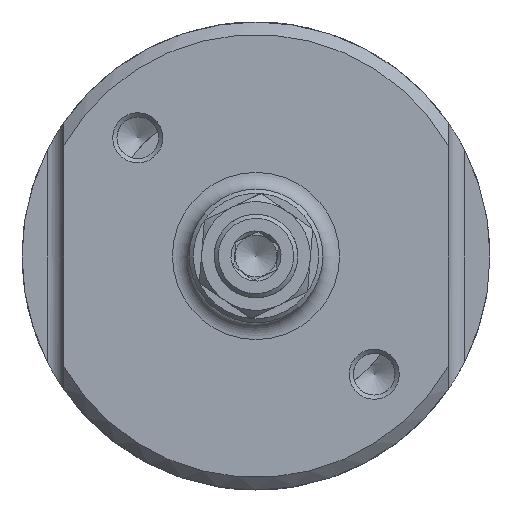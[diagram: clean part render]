
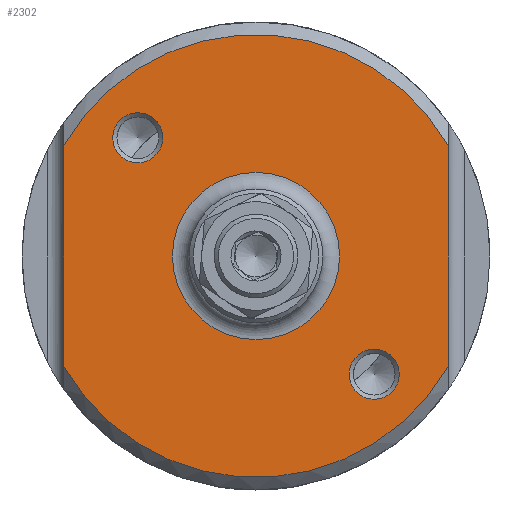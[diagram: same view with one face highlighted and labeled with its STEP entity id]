
A CAD part, front view. The second image highlights one B-rep face of the part: STEP entity #2302.
In plain terms, the highlighted planar face has unit normal (0, -1, 0).
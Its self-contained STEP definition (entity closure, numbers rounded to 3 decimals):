
#2302=ADVANCED_FACE('',(#2520,#2521,#2522,#2947),#2438,.T.);
#2438=PLANE('',#6611);
#2520=FACE_BOUND('',#3231,.T.);
#2521=FACE_BOUND('',#3232,.T.);
#2522=FACE_BOUND('',#3233,.T.);
#2712=CIRCLE('',#6582,3.);
#2713=CIRCLE('',#6584,3.);
#2716=CIRCLE('',#6590,10.);
#2727=CIRCLE('',#6609,26.5);
#2728=CIRCLE('',#6610,26.5);
#2947=FACE_OUTER_BOUND('',#3234,.T.);
#3231=EDGE_LOOP('',(#4753));
#3232=EDGE_LOOP('',(#4754));
#3233=EDGE_LOOP('',(#4755));
#3234=EDGE_LOOP('',(#4756,#4757,#4758,#4759));
#3526=LINE('',#16936,#3729);
#3527=LINE('',#16941,#3730);
#3729=VECTOR('',#7578,1.);
#3730=VECTOR('',#7581,1.);
#4753=ORIENTED_EDGE('',*,*,#5988,.T.);
#4754=ORIENTED_EDGE('',*,*,#5987,.T.);
#4755=ORIENTED_EDGE('',*,*,#5996,.T.);
#4756=ORIENTED_EDGE('',*,*,#6030,.F.);
#4757=ORIENTED_EDGE('',*,*,#6031,.T.);
#4758=ORIENTED_EDGE('',*,*,#6032,.F.);
#4759=ORIENTED_EDGE('',*,*,#6033,.T.);
#5392=VERTEX_POINT('',#15885);
#5393=VERTEX_POINT('',#15888);
#5400=VERTEX_POINT('',#15956);
#5426=VERTEX_POINT('',#16937);
#5427=VERTEX_POINT('',#16938);
#5428=VERTEX_POINT('',#16940);
#5429=VERTEX_POINT('',#16942);
#5987=EDGE_CURVE('',#5392,#5392,#2712,.T.);
#5988=EDGE_CURVE('',#5393,#5393,#2713,.T.);
#5996=EDGE_CURVE('',#5400,#5400,#2716,.T.);
#6030=EDGE_CURVE('',#5426,#5427,#3526,.T.);
#6031=EDGE_CURVE('',#5426,#5428,#2727,.T.);
#6032=EDGE_CURVE('',#5429,#5428,#3527,.T.);
#6033=EDGE_CURVE('',#5429,#5427,#2728,.T.);
#6582=AXIS2_PLACEMENT_3D('',#15884,#7512,#7513);
#6584=AXIS2_PLACEMENT_3D('',#15887,#7516,#7517);
#6590=AXIS2_PLACEMENT_3D('',#15955,#7530,#7531);
#6609=AXIS2_PLACEMENT_3D('',#16939,#7579,#7580);
#6610=AXIS2_PLACEMENT_3D('',#16943,#7582,#7583);
#6611=AXIS2_PLACEMENT_3D('',#16944,#7584,#7585);
#7512=DIRECTION('',(0.,1.,0.));
#7513=DIRECTION('',(1.,0.,0.));
#7516=DIRECTION('',(0.,1.,0.));
#7517=DIRECTION('',(1.,0.,0.));
#7530=DIRECTION('',(0.,1.,0.));
#7531=DIRECTION('',(1.,0.,0.));
#7578=DIRECTION('',(0.,0.,1.));
#7579=DIRECTION('',(0.,-1.,0.));
#7580=DIRECTION('',(1.,0.,0.));
#7581=DIRECTION('',(0.,0.,-1.));
#7582=DIRECTION('',(0.,-1.,0.));
#7583=DIRECTION('',(1.,0.,0.));
#7584=DIRECTION('',(0.,-1.,0.));
#7585=DIRECTION('',(1.,0.,0.));
#15884=CARTESIAN_POINT('',(0.858,-20.5,37.142));
#15885=CARTESIAN_POINT('',(3.858,-20.5,37.142));
#15887=CARTESIAN_POINT('',(29.142,-20.5,8.858));
#15888=CARTESIAN_POINT('',(32.142,-20.5,8.858));
#15955=CARTESIAN_POINT('',(15.,-20.5,23.));
#15956=CARTESIAN_POINT('',(25.,-20.5,23.));
#16936=CARTESIAN_POINT('',(-8.,-20.5,23.));
#16937=CARTESIAN_POINT('',(-8.,-20.5,9.838));
#16938=CARTESIAN_POINT('',(-8.,-20.5,36.162));
#16939=CARTESIAN_POINT('',(15.,-20.5,23.));
#16940=CARTESIAN_POINT('',(38.,-20.5,9.838));
#16941=CARTESIAN_POINT('',(38.,-20.5,23.));
#16942=CARTESIAN_POINT('',(38.,-20.5,36.162));
#16943=CARTESIAN_POINT('',(15.,-20.5,23.));
#16944=CARTESIAN_POINT('',(15.,-20.5,23.));
